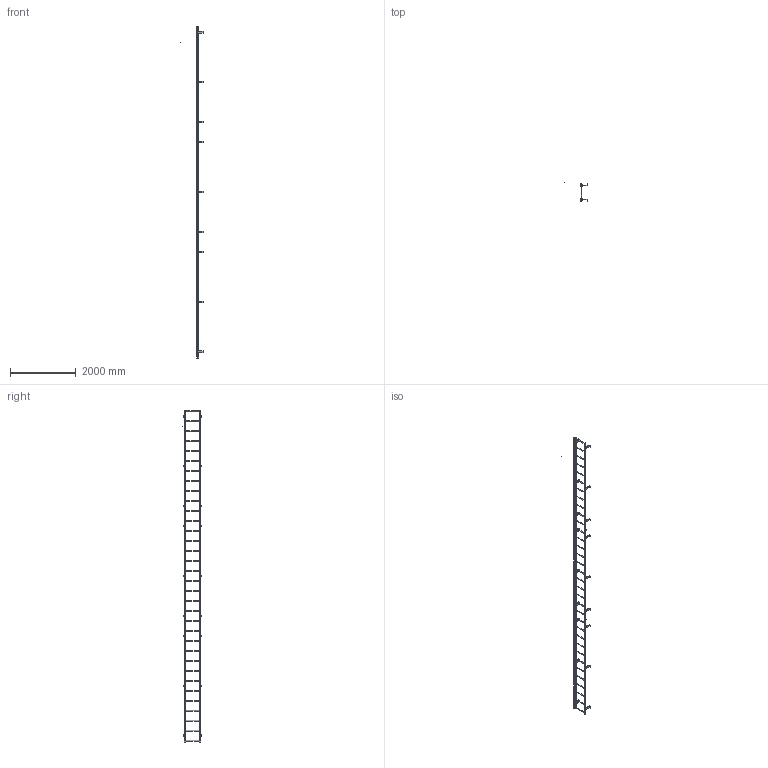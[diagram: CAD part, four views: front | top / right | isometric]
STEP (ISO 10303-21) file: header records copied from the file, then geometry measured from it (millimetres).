
FILE_DESCRIPTION(/* description */ (''),/* implementation_level */ '2;1');
FILE_NAME(/* name */ 'P:\MIKEL & KAREN\D0570348 F34S SIMPLIFIED PART.stp',/* time_stamp */ '2018-07-03T08:33:37-04:00',/* author */ ('stephanie'),/* organization */ (''),/* preprocessor_version */ 'ST-DEVELOPER v16.1',/* originating_system */ 'Autodesk Inventor 2016',/* authorisation */ '');
FILE_SCHEMA (('AUTOMOTIVE_DESIGN { 1 0 10303 214 3 1 1 }'));
Length unit declared in the file: centimetre
Products named in the file (1): D0570348 F34S SIMPLIFIED PART
Bounding box: 702.25 x 567.04 x 10134.6 mm (x, y, z)
Volume: 17705744.9 mm3; surface area: 5318215.2 mm2
Topology: 37 solids, 37 shells, 523 faces, 1401 edges, 936 vertices
Faces by surface type: plane 308, cylinder 215
Full cylindrical faces by diameter (mm): 0.254 x1, 14.287 x22, 19.05 x34, 22.225 x68
Entity records: 15928 total; most frequent: DIRECTION 2700, CARTESIAN_POINT 2556, ORIENTED_EDGE 2372, EDGE_CURVE 1186, AXIS2_PLACEMENT_3D 990, VERTEX_POINT 846, EDGE_LOOP 828, LINE 720
